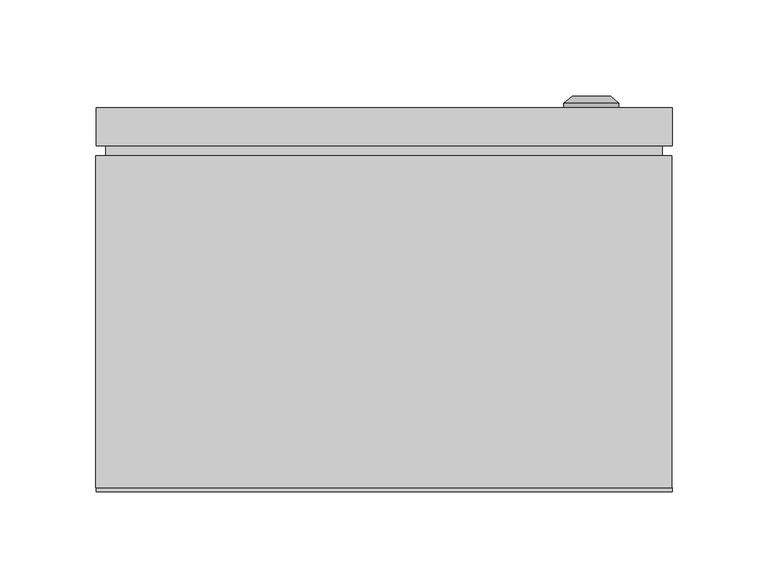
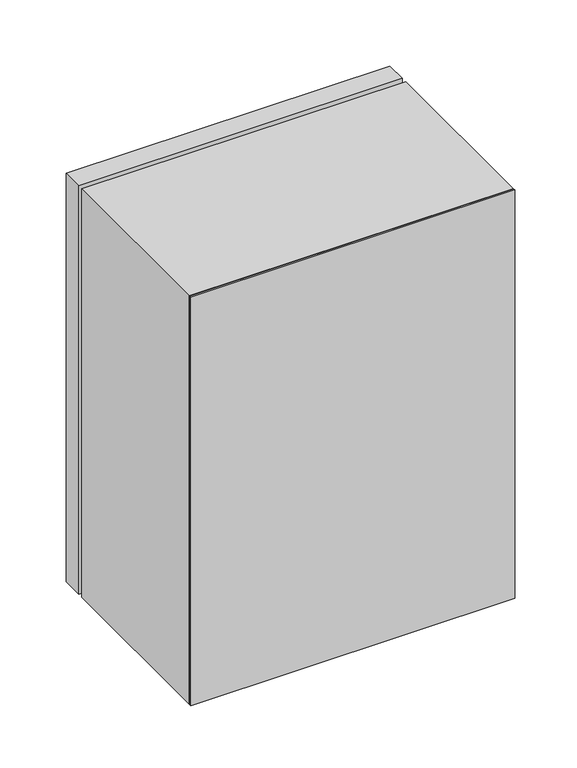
"""IFC4 building model written with IfcOpenShell, lengths in millimetres: proxy geometry, ЩМП_IP65 : ЩМП-4.3.2-0_400х300х200."""

from ifc_helpers import new_model, si_unit, frame, origin, origin_with_axes, place, context, project, spatial, polyline, circle_curve, outline, extrude, source, transform, mapped, element, save
from ifc_brep_helpers import plane_surface, cylinder_surface, revolved_surface, advanced_brep


def electrical_equipment_001f828e(model_context):
    return source(origin(), model_context, "Body", "SolidModel", [
        extrude(outline(polyline([(145.0, 175.0), (-145.0, 175.0), (-145.0, 180.0), (145.0, 180.0), (145.0, 175.0)])), frame((0.0, 0.0, 5.0), z_axis=(0.0, 0.0, 1.0), x_axis=(1.0, 0.0, 0.0)), (0.0, 0.0, 1.0), 390.0),
        extrude(outline(polyline([(150.0, 180.0), (-150.0, 180.0), (-150.0, 200.0), (150.0, 200.0), (150.0, 180.0)])), origin_with_axes(), (0.0, 0.0, 1.0), 400.0),
        advanced_brep(
        [(93.669873, 200.0, 195.0), (122.330127, 200.0, 195.0), (108.0, 200.0, 195.0), (93.669873, 202.366592, 195.0), (122.330127, 202.366592, 195.0), (98.0, 206.0, 195.0), (118.0, 206.0, 195.0), (106.1080471, 206.0, 195.0), (109.8919529, 206.0, 195.0), (106.1080471, 204.9822294, 195.0), (109.8919529, 204.9822294, 195.0), (108.0, 204.9822294, 195.0)],
        [
            (0, 1, circle_curve(frame((108.0, 200.0, 195.0), z_axis=(0.0, -1.0, 0.0), x_axis=(1.0, 0.0, 0.0)), 14.330127)),
            (1, 2),
            (2, 0),
            (1, 0, circle_curve(frame((108.0, 200.0, 195.0), z_axis=(0.0, -1.0, 0.0), x_axis=(1.0, 0.0, 0.0)), 14.330127)),
            (3, 4, circle_curve(frame((108.0, 202.366592, 195.0), z_axis=(0.0, -1.0, 0.0), x_axis=(1.0, 0.0, 0.0)), 14.330127)),
            (4, 1),
            (0, 3),
            (4, 3, circle_curve(frame((108.0, 202.366592, 195.0), z_axis=(0.0, -1.0, 0.0), x_axis=(1.0, 0.0, 0.0)), 14.330127)),
            (5, 6, circle_curve(frame((108.0, 206.0, 195.0), z_axis=(0.0, -1.0, 0.0), x_axis=(1.0, 0.0, 0.0)), 10.0)),
            (6, 4),
            (3, 5),
            (6, 5, circle_curve(frame((108.0, 206.0, 195.0), z_axis=(0.0, -1.0, 0.0), x_axis=(1.0, 0.0, 0.0)), 10.0)),
            (7, 8, circle_curve(frame((108.0, 206.0, 195.0), z_axis=(0.0, -1.0, 0.0), x_axis=(1.0, 0.0, 0.0)), 1.8919529)),
            (8, 6),
            (5, 7),
            (8, 7, circle_curve(frame((108.0, 206.0, 195.0), z_axis=(0.0, -1.0, 0.0), x_axis=(1.0, 0.0, 0.0)), 1.8919529)),
            (9, 10, circle_curve(frame((108.0, 204.9822294, 195.0), z_axis=(0.0, -1.0, 0.0), x_axis=(1.0, 0.0, 0.0)), 1.8919529)),
            (10, 8),
            (7, 9),
            (10, 9, circle_curve(frame((108.0, 204.9822294, 195.0), z_axis=(0.0, -1.0, 0.0), x_axis=(1.0, 0.0, 0.0)), 1.8919529)),
            (11, 10),
            (9, 11),
        ],
        [
            plane_surface(frame((108.0, 200.0, 195.0), z_axis=(0.0, -1.0, 0.0), x_axis=(1.0, 0.0, 0.0))),
            cylinder_surface(frame((108.0, 213.1348851, 195.0), z_axis=(0.0, 1.0, 0.0), x_axis=(1.0, 0.0, 0.0)), 14.330127),
            revolved_surface(polyline([(122.330127, 202.366592, 195.0), (118.0, 206.0, 195.0)]), (108.0, 213.1348851, 195.0), (0.0, 1.0, 0.0)),
            plane_surface(frame((108.0, 206.0, 195.0), z_axis=(0.0, 1.0, 0.0), x_axis=(1.0, 0.0, 0.0))),
            revolved_surface(polyline([(109.8919529, 206.0, 195.0), (109.8919529, 204.9822294, 195.0)]), (108.0, 213.1348851, 195.0), (0.0, 1.0, 0.0)),
            plane_surface(frame((108.0, 204.9822294, 195.0), z_axis=(0.0, 1.0, 0.0), x_axis=(1.0, 0.0, 0.0))),
        ],
        [
            (0, [[1, 2, 3]]),
            (0, [[4, -3, -2]]),
            (1, [[5, 6, -1, 7]]),
            (1, [[8, -7, -4, -6]]),
            (2, [[9, 10, -5, 11]]),
            (2, [[12, -11, -8, -10]]),
            (3, [[13, 14, -9, 15]]),
            (3, [[16, -15, -12, -14]]),
            (4, [[17, 18, -13, 19]]),
            (4, [[20, -19, -16, -18]]),
            (5, [[21, -17, 22]]),
            (5, [[-22, -20, -21]]),
        ],
    ),
        extrude(outline(polyline([(400.0, -150.0033905), (0.0, -150.0033905), (0.0, 149.9966095), (400.0, 149.9966095), (400.0, -150.0033905)]), holes=[polyline([(365.0, -118.0033905), (365.0, 117.9966095), (25.0, 117.9966095), (25.0, -118.0033905), (365.0, -118.0033905)])]), frame((0.0, 2.0, 0.0), z_axis=(0.0, 1.0, 0.0), x_axis=(0.0, 0.0, 1.0)), (0.0, 0.0, 1.0), 173.0),
        extrude(outline(polyline([(150.0, 0.0), (-150.0, 0.0), (-150.0, 2.0), (150.0, 2.0), (150.0, 0.0)])), origin_with_axes(), (0.0, 0.0, 1.0), 400.0),
    ])


if __name__ == "__main__":
    model = new_model("IFC4")
    model_context = context("Model", 3, world=origin())
    ifc_project = project(units=[si_unit("LENGTHUNIT", "METRE", prefix="MILLI")], contexts=[model_context])
    site = spatial("IfcSite", under=ifc_project)
    building = spatial("IfcBuilding", under=site)
    placement = place(None, origin())
    electrical_equipment_shape = electrical_equipment_001f828e(model_context)
    element("IfcBuildingElementProxy", 1, Name="ЩМП_IP65 : ЩМП-4.3.2-0_400х300х200", ObjectType="ЩМП_IP65 : ЩМП-4.3.2-0_400х300х200", at=placement, inside=building, context=model_context, shape_type="MappedRepresentation", body=[
        mapped(electrical_equipment_shape, transform((0.0, 0.0, 0.0), x_axis=(1.0, 0.0, 0.0), y_axis=(0.0, 1.0, 0.0), z_axis=(0.0, 0.0, 1.0))),
    ])
    save(model, "model.ifc")
